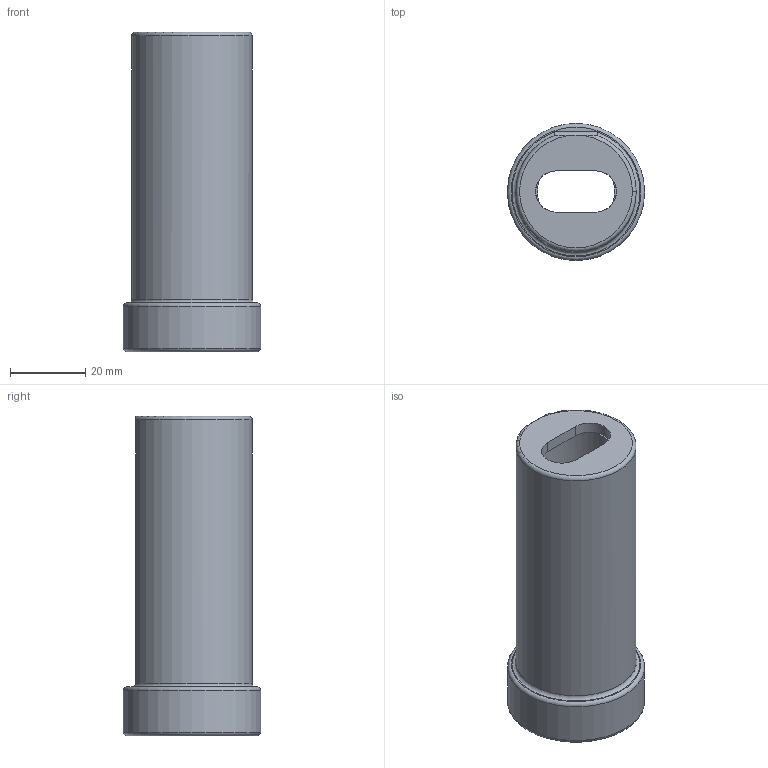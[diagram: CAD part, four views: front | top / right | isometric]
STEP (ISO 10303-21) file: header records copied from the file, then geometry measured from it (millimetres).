
FILE_DESCRIPTION(/* description */ (''),/* implementation_level */ '2;1');
FILE_NAME(/* name */ 'D32-MT3.stp',/* time_stamp */ '2025-09-01T17:10:12+03:00',/* author */ ('User'),/* organization */ (''),/* preprocessor_version */ 'ST-DEVELOPER v19.2',/* originating_system */ 'Autodesk Inventor 2024',/* authorisation */ '');
FILE_SCHEMA (('AUTOMOTIVE_DESIGN { 1 0 10303 214 3 1 1 }'));
Length unit declared in the file: millimetre
Products named in the file (1): D40-MT4
Bounding box: 36.5 x 36.5 x 85 mm (x, y, z)
Volume: 39483.9 mm3; surface area: 15890.7 mm2
Topology: 1 solids, 1 shells, 22 faces, 49 edges, 30 vertices
Faces by surface type: plane 10, cylinder 6, torus 5, cone 1
Full cylindrical faces by diameter (mm): 20.512 x1, 36.5 x1
Entity records: 728 total; most frequent: CARTESIAN_POINT 154, DIRECTION 121, ORIENTED_EDGE 98, AXIS2_PLACEMENT_3D 53, EDGE_CURVE 49, CIRCLE 30, VERTEX_POINT 30, EDGE_LOOP 25
